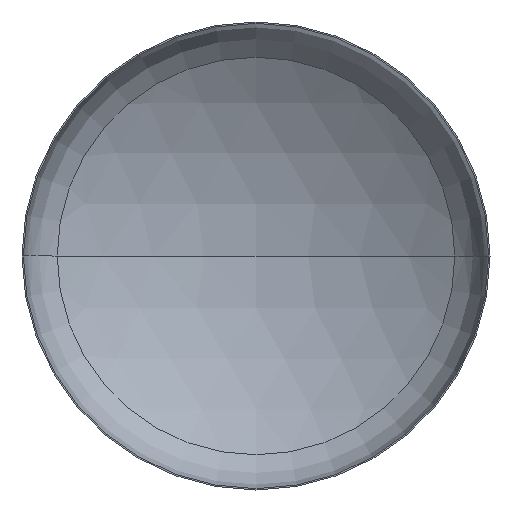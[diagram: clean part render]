
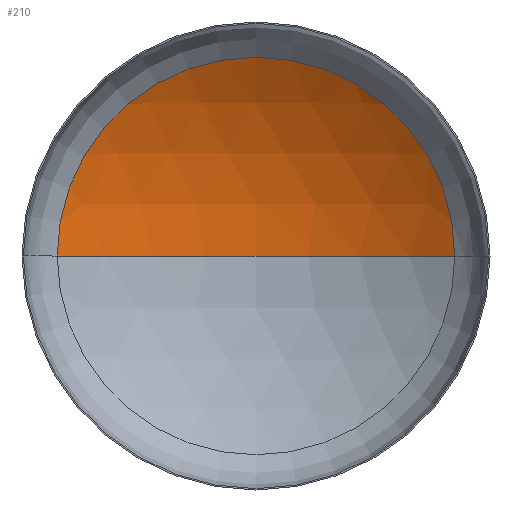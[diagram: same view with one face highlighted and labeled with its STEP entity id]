
A CAD part, front view. The second image highlights one B-rep face of the part: STEP entity #210.
In plain terms, the highlighted spherical face has radius 1920 mm.
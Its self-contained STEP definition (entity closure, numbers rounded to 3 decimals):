
#20 = EDGE_LOOP ( 'NONE', ( #49, #42, #410 ) ) ;
#35 = AXIS2_PLACEMENT_3D ( 'NONE', #383, #403, #387 ) ;
#42 = ORIENTED_EDGE ( 'NONE', *, *, #154, .T. ) ;
#45 = VERTEX_POINT ( 'NONE', #246 ) ;
#49 = ORIENTED_EDGE ( 'NONE', *, *, #165, .F. ) ;
#54 = AXIS2_PLACEMENT_3D ( 'NONE', #282, #273, #270 ) ;
#55 = AXIS2_PLACEMENT_3D ( 'NONE', #192, #200, #201 ) ;
#59 = AXIS2_PLACEMENT_3D ( 'NONE', #394, #350, #180 ) ;
#99 = VERTEX_POINT ( 'NONE', #367 ) ;
#129 = VERTEX_POINT ( 'NONE', #206 ) ;
#134 = CIRCLE ( 'NONE', #55, 1920. ) ;
#148 = EDGE_CURVE ( 'NONE', #129, #99, #204, .T. ) ;
#154 = EDGE_CURVE ( 'NONE', #45, #129, #134, .T. ) ;
#165 = EDGE_CURVE ( 'NONE', #45, #99, #258, .T. ) ;
#180 = DIRECTION ( 'NONE',  ( 1., 0., 0. ) ) ;
#192 = CARTESIAN_POINT ( 'NONE',  ( 0., -1288.458, 0. ) ) ;
#200 = DIRECTION ( 'NONE',  ( 0., 0., -1. ) ) ;
#201 = DIRECTION ( 'NONE',  ( -1., 0., 0. ) ) ;
#204 = CIRCLE ( 'NONE', #59, 1019.458 ) ;
#206 = CARTESIAN_POINT ( 'NONE',  ( 1019.458, 338.535, 0. ) ) ;
#210 = ADVANCED_FACE ( 'NONE', ( #252 ), #368, .F. ) ;
#246 = CARTESIAN_POINT ( 'NONE',  ( 0., 631.542, 0. ) ) ;
#252 = FACE_OUTER_BOUND ( 'NONE', #20, .T. ) ;
#258 = CIRCLE ( 'NONE', #54, 1920. ) ;
#270 = DIRECTION ( 'NONE',  ( 1., 0., 0. ) ) ;
#273 = DIRECTION ( 'NONE',  ( 0., 0., 1. ) ) ;
#282 = CARTESIAN_POINT ( 'NONE',  ( 0., -1288.458, 0. ) ) ;
#350 = DIRECTION ( 'NONE',  ( 0., -1., 0. ) ) ;
#367 = CARTESIAN_POINT ( 'NONE',  ( -1019.458, 338.535, 0. ) ) ;
#368 = SPHERICAL_SURFACE ( 'NONE', #35, 1920. ) ;
#383 = CARTESIAN_POINT ( 'NONE',  ( 0., -1288.458, 0. ) ) ;
#387 = DIRECTION ( 'NONE',  ( -1., 0., 0. ) ) ;
#394 = CARTESIAN_POINT ( 'NONE',  ( 0., 338.535, 0. ) ) ;
#403 = DIRECTION ( 'NONE',  ( 0., 0., -1. ) ) ;
#410 = ORIENTED_EDGE ( 'NONE', *, *, #148, .T. ) ;
